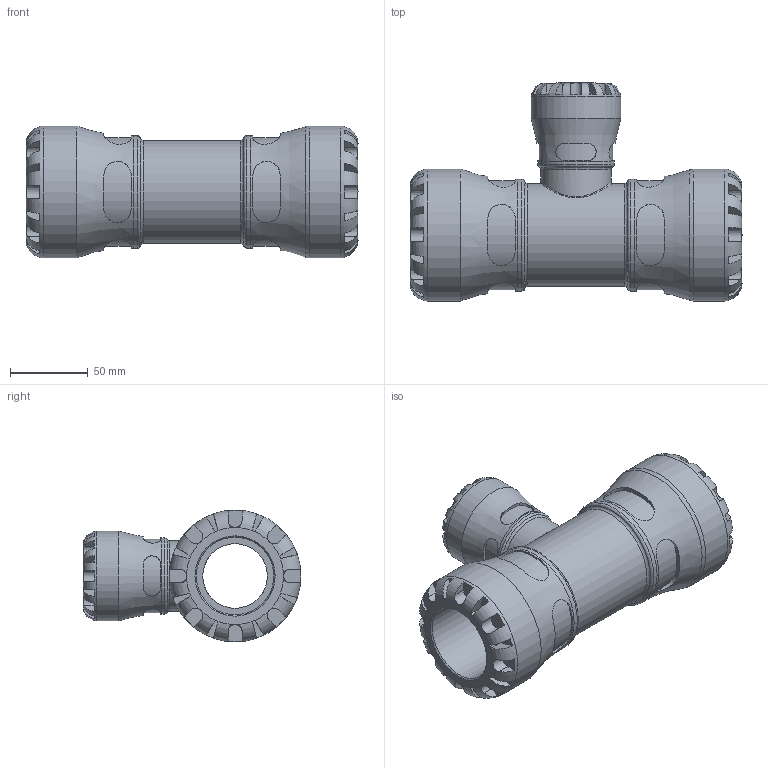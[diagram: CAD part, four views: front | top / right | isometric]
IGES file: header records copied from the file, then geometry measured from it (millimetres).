
Global section: file name: 103400050032_193400050032.ipt; native system: Autodesk Inventor 2015; preprocessor: unknown; author: KIM; date: 20170122.114106; units: millimetre
Bounding box: 214 x 140.5 x 85 mm (x, y, z)
Volume: 635539.7 mm3; surface area: 116129.3 mm2
Topology: 1 solids, 1 shells, 287 faces, 749 edges, 477 vertices
Faces by surface type: plane 174, revolution 68, cylinder 44, bspline 1
Full cylindrical faces by diameter (mm): 45.24 x1, 49.3 x1, 58 x1, 66.3 x1, 72.25 x2, 85 x2
